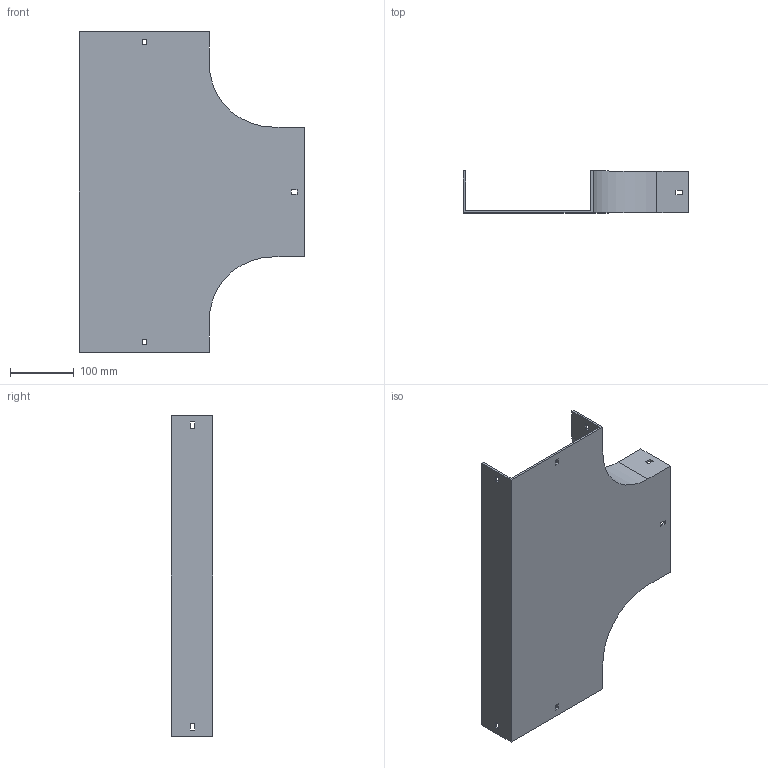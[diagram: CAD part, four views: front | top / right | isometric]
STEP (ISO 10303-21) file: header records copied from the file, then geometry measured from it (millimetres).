
FILE_DESCRIPTION (( 'STEP AP214' ), '1' );
FILE_NAME ('15B1H200.step', '2025-02-21T09:54:47', ( '' ), ( '' ), 'SwSTEP 2.0', 'SolidWorks 2023', '' );
FILE_SCHEMA (( 'AUTOMOTIVE_DESIGN' ));
Length unit declared in the file: millimetre
Products named in the file (1): 15B1H200
Bounding box: 354 x 65.5 x 504 mm (x, y, z)
Volume: 702027.5 mm3; surface area: 409205.6 mm2
Topology: 1 solids, 1 shells, 58 faces, 168 edges, 112 vertices
Faces by surface type: plane 54, cylinder 4
Entity records: 1939 total; most frequent: CARTESIAN_POINT 339, ORIENTED_EDGE 336, DIRECTION 294, EDGE_CURVE 168, VECTOR 160, LINE 160, VERTEX_POINT 112, EDGE_LOOP 76
